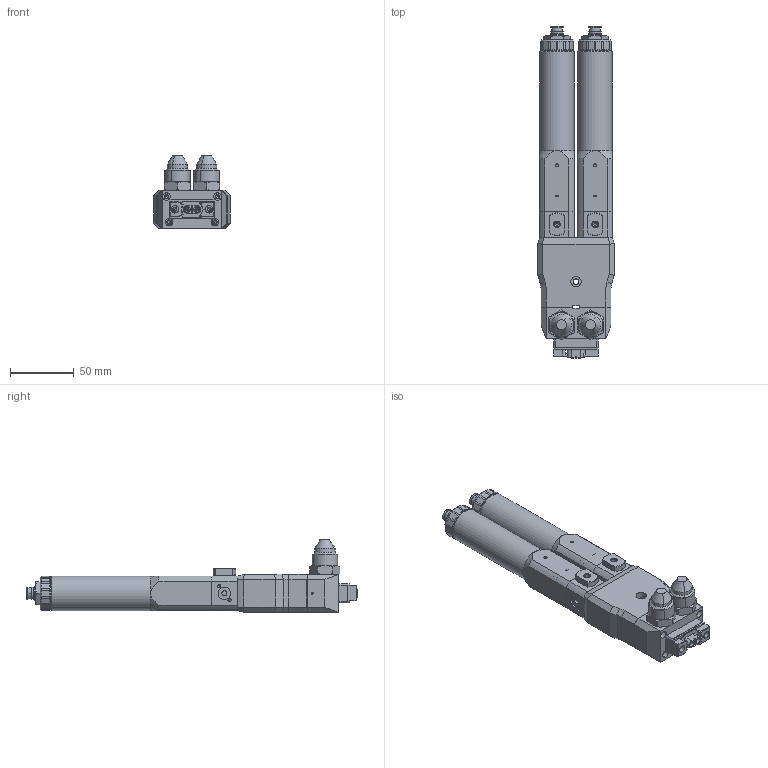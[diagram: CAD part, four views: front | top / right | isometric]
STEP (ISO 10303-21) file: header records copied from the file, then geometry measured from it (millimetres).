
FILE_DESCRIPTION (( 'STEP AP214' ), '1' );
FILE_NAME ('PDPM-050-015-005BA.STEP', '2024-10-11T11:51:58', ( '' ), ( '' ), 'SwSTEP 2.0', 'SolidWorks 2024', '' );
FILE_SCHEMA (( 'AUTOMOTIVE_DESIGN' ));
Length unit declared in the file: millimetre
Products named in the file (1): PDPM-050-015-005BA
Bounding box: 60 x 261 x 57.3 mm (x, y, z)
Volume: 343470 mm3; surface area: 88717.4 mm2
Topology: 13 solids, 13 shells, 1465 faces, 3636 edges, 2282 vertices
Faces by surface type: cylinder 588, plane 512, cone 339, bspline 22, torus 4
Full cylindrical faces by diameter (mm): 27 x2
Entity records: 56970 total; most frequent: CARTESIAN_POINT 22669, ORIENTED_EDGE 7164, DIRECTION 7123, EDGE_CURVE 3582, AXIS2_PLACEMENT_3D 2770, VERTEX_POINT 2282, EDGE_LOOP 1652, LINE 1583
